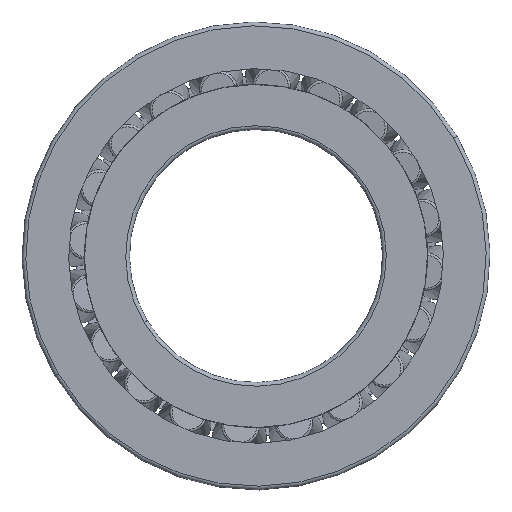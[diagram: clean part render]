
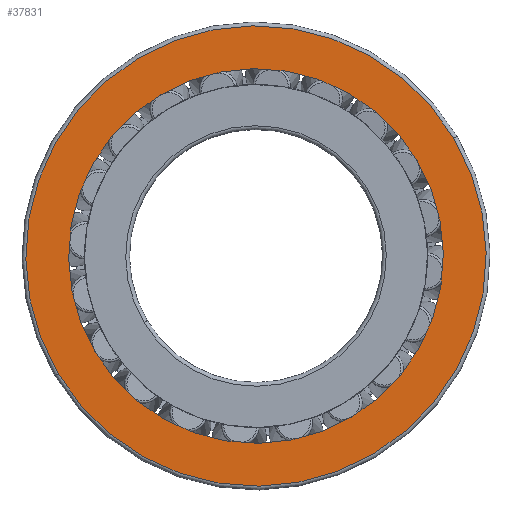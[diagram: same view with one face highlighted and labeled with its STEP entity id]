
A CAD part, front view. The second image highlights one B-rep face of the part: STEP entity #37831.
In plain terms, the highlighted planar face has unit normal (0, -1, 0).
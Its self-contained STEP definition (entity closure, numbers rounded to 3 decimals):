
#73 = CONICAL_SURFACE('',#74,14.811,0.209);
#74 = AXIS2_PLACEMENT_3D('',#75,#76,#77);
#75 = CARTESIAN_POINT('',(0.,116.9,0.)
  );
#76 = DIRECTION('',(0.,1.,0.));
#77 = DIRECTION('',(-0.859,0.,-0.511)
  );
#8903 = CONICAL_SURFACE('',#8904,14.811,0.209);
#8904 = AXIS2_PLACEMENT_3D('',#8905,#8906,#8907);
#8905 = CARTESIAN_POINT('',(0.,116.9,
    0.));
#8906 = DIRECTION('',(0.,1.,0.));
#8907 = DIRECTION('',(-0.859,0.,
    -0.511));
#16813 = TOROIDAL_SURFACE('',#16814,18.2,0.3);
#16814 = AXIS2_PLACEMENT_3D('',#16815,#16816,#16817);
#16815 = CARTESIAN_POINT('',(0.,117.2,
    0.));
#16816 = DIRECTION('',(0.,-1.,0.));
#16817 = DIRECTION('',(0.859,0.,0.511)
  );
#16838 = VERTEX_POINT('',#16839);
#16839 = CARTESIAN_POINT('',(-15.64,116.9,-9.307));
#16854 = TOROIDAL_SURFACE('',#16855,18.2,0.3);
#16855 = AXIS2_PLACEMENT_3D('',#16856,#16857,#16858);
#16856 = CARTESIAN_POINT('',(0.,117.2,
    0.));
#16857 = DIRECTION('',(0.,-1.,0.));
#16858 = DIRECTION('',(0.859,0.,0.511)
  );
#16866 = EDGE_CURVE('',#16867,#16838,#16869,.T.);
#16867 = VERTEX_POINT('',#16868);
#16868 = CARTESIAN_POINT('',(15.64,116.9,9.307));
#16869 = SURFACE_CURVE('',#16870,(#16875,#16882),.PCURVE_S1.);
#16870 = CIRCLE('',#16871,18.2);
#16871 = AXIS2_PLACEMENT_3D('',#16872,#16873,#16874);
#16872 = CARTESIAN_POINT('',(0.,116.9,
    0.));
#16873 = DIRECTION('',(0.,-1.,0.));
#16874 = DIRECTION('',(0.859,0.,0.511)
  );
#16875 = PCURVE('',#16813,#16876);
#16876 = DEFINITIONAL_REPRESENTATION('',(#16877),#16881);
#16877 = LINE('',#16878,#16879);
#16878 = CARTESIAN_POINT('',(0.,1.571));
#16879 = VECTOR('',#16880,1.);
#16880 = DIRECTION('',(1.,0.));
#16881 = ( GEOMETRIC_REPRESENTATION_CONTEXT(2) 
PARAMETRIC_REPRESENTATION_CONTEXT() REPRESENTATION_CONTEXT('2D SPACE',''
  ) );
#16882 = PCURVE('',#16883,#16888);
#16883 = PLANE('',#16884);
#16884 = AXIS2_PLACEMENT_3D('',#16885,#16886,#16887);
#16885 = CARTESIAN_POINT('',(-15.64,116.9,-9.307));
#16886 = DIRECTION('',(0.,1.,0.));
#16887 = DIRECTION('',(-0.859,0.,
    -0.511));
#16888 = DEFINITIONAL_REPRESENTATION('',(#16889),#16897);
#16889 = ( BOUNDED_CURVE() B_SPLINE_CURVE(2,(#16890,#16891,#16892,#16893
    ,#16894,#16895,#16896),.UNSPECIFIED.,.T.,.F.) 
B_SPLINE_CURVE_WITH_KNOTS((1,2,2,2,2,1),(-2.094,0.,
    2.094,4.189,6.283,8.378),
.UNSPECIFIED.) CURVE() GEOMETRIC_REPRESENTATION_ITEM() 
RATIONAL_B_SPLINE_CURVE((1.,0.5,1.,0.5,1.,0.5,1.)) REPRESENTATION_ITEM(
  '') );
#16890 = CARTESIAN_POINT('',(-36.4,0.));
#16891 = CARTESIAN_POINT('',(-36.4,31.523));
#16892 = CARTESIAN_POINT('',(-9.1,15.762));
#16893 = CARTESIAN_POINT('',(18.2,0.));
#16894 = CARTESIAN_POINT('',(-9.1,-15.762));
#16895 = CARTESIAN_POINT('',(-36.4,-31.523));
#16896 = CARTESIAN_POINT('',(-36.4,0.));
#16897 = ( GEOMETRIC_REPRESENTATION_CONTEXT(2) 
PARAMETRIC_REPRESENTATION_CONTEXT() REPRESENTATION_CONTEXT('2D SPACE',''
  ) );
#19746 = VERTEX_POINT('',#19747);
#19747 = CARTESIAN_POINT('',(-12.728,116.9,-7.574));
#20144 = VERTEX_POINT('',#20145);
#20145 = CARTESIAN_POINT('',(12.728,116.9,7.574));
#20166 = EDGE_CURVE('',#19746,#20144,#20167,.T.);
#20167 = SURFACE_CURVE('',#20168,(#20173,#20180),.PCURVE_S1.);
#20168 = CIRCLE('',#20169,14.811);
#20169 = AXIS2_PLACEMENT_3D('',#20170,#20171,#20172);
#20170 = CARTESIAN_POINT('',(0.,116.9,
    0.));
#20171 = DIRECTION('',(0.,-1.,0.));
#20172 = DIRECTION('',(0.859,0.,0.511)
  );
#20173 = PCURVE('',#73,#20174);
#20174 = DEFINITIONAL_REPRESENTATION('',(#20175),#20179);
#20175 = LINE('',#20176,#20177);
#20176 = CARTESIAN_POINT('',(9.425,0.));
#20177 = VECTOR('',#20178,1.);
#20178 = DIRECTION('',(-1.,0.));
#20179 = ( GEOMETRIC_REPRESENTATION_CONTEXT(2) 
PARAMETRIC_REPRESENTATION_CONTEXT() REPRESENTATION_CONTEXT('2D SPACE',''
  ) );
#20180 = PCURVE('',#16883,#20181);
#20181 = DEFINITIONAL_REPRESENTATION('',(#20182),#20190);
#20182 = ( BOUNDED_CURVE() B_SPLINE_CURVE(2,(#20183,#20184,#20185,#20186
    ,#20187,#20188,#20189),.UNSPECIFIED.,.T.,.F.) 
B_SPLINE_CURVE_WITH_KNOTS((1,2,2,2,2,1),(-2.094,0.,
    2.094,4.189,6.283,8.378),
.UNSPECIFIED.) CURVE() GEOMETRIC_REPRESENTATION_ITEM() 
RATIONAL_B_SPLINE_CURVE((1.,0.5,1.,0.5,1.,0.5,1.)) REPRESENTATION_ITEM(
  '') );
#20183 = CARTESIAN_POINT('',(-33.011,0.));
#20184 = CARTESIAN_POINT('',(-33.011,25.653));
#20185 = CARTESIAN_POINT('',(-10.795,12.826));
#20186 = CARTESIAN_POINT('',(11.421,0.));
#20187 = CARTESIAN_POINT('',(-10.795,-12.826));
#20188 = CARTESIAN_POINT('',(-33.011,-25.653));
#20189 = CARTESIAN_POINT('',(-33.011,0.));
#20190 = ( GEOMETRIC_REPRESENTATION_CONTEXT(2) 
PARAMETRIC_REPRESENTATION_CONTEXT() REPRESENTATION_CONTEXT('2D SPACE',''
  ) );
#37831 = ADVANCED_FACE('',(#37832,#37861),#16883,.F.);
#37832 = FACE_BOUND('',#37833,.T.);
#37833 = EDGE_LOOP('',(#37834,#37835));
#37834 = ORIENTED_EDGE('',*,*,#20166,.F.);
#37835 = ORIENTED_EDGE('',*,*,#37836,.F.);
#37836 = EDGE_CURVE('',#20144,#19746,#37837,.T.);
#37837 = SURFACE_CURVE('',#37838,(#37843,#37854),.PCURVE_S1.);
#37838 = CIRCLE('',#37839,14.811);
#37839 = AXIS2_PLACEMENT_3D('',#37840,#37841,#37842);
#37840 = CARTESIAN_POINT('',(0.,116.9,
    0.));
#37841 = DIRECTION('',(0.,-1.,0.));
#37842 = DIRECTION('',(0.859,0.,0.511)
  );
#37843 = PCURVE('',#16883,#37844);
#37844 = DEFINITIONAL_REPRESENTATION('',(#37845),#37853);
#37845 = ( BOUNDED_CURVE() B_SPLINE_CURVE(2,(#37846,#37847,#37848,#37849
    ,#37850,#37851,#37852),.UNSPECIFIED.,.T.,.F.) 
B_SPLINE_CURVE_WITH_KNOTS((1,2,2,2,2,1),(-2.094,0.,
    2.094,4.189,6.283,8.378),
.UNSPECIFIED.) CURVE() GEOMETRIC_REPRESENTATION_ITEM() 
RATIONAL_B_SPLINE_CURVE((1.,0.5,1.,0.5,1.,0.5,1.)) REPRESENTATION_ITEM(
  '') );
#37846 = CARTESIAN_POINT('',(-33.011,0.));
#37847 = CARTESIAN_POINT('',(-33.011,25.653));
#37848 = CARTESIAN_POINT('',(-10.795,12.826));
#37849 = CARTESIAN_POINT('',(11.421,0.));
#37850 = CARTESIAN_POINT('',(-10.795,-12.826));
#37851 = CARTESIAN_POINT('',(-33.011,-25.653));
#37852 = CARTESIAN_POINT('',(-33.011,0.));
#37853 = ( GEOMETRIC_REPRESENTATION_CONTEXT(2) 
PARAMETRIC_REPRESENTATION_CONTEXT() REPRESENTATION_CONTEXT('2D SPACE',''
  ) );
#37854 = PCURVE('',#8903,#37855);
#37855 = DEFINITIONAL_REPRESENTATION('',(#37856),#37860);
#37856 = LINE('',#37857,#37858);
#37857 = CARTESIAN_POINT('',(3.142,0.));
#37858 = VECTOR('',#37859,1.);
#37859 = DIRECTION('',(-1.,0.));
#37860 = ( GEOMETRIC_REPRESENTATION_CONTEXT(2) 
PARAMETRIC_REPRESENTATION_CONTEXT() REPRESENTATION_CONTEXT('2D SPACE',''
  ) );
#37861 = FACE_BOUND('',#37862,.T.);
#37862 = EDGE_LOOP('',(#37863,#37864));
#37863 = ORIENTED_EDGE('',*,*,#16866,.T.);
#37864 = ORIENTED_EDGE('',*,*,#37865,.T.);
#37865 = EDGE_CURVE('',#16838,#16867,#37866,.T.);
#37866 = SURFACE_CURVE('',#37867,(#37872,#37883),.PCURVE_S1.);
#37867 = CIRCLE('',#37868,18.2);
#37868 = AXIS2_PLACEMENT_3D('',#37869,#37870,#37871);
#37869 = CARTESIAN_POINT('',(0.,116.9,
    0.));
#37870 = DIRECTION('',(0.,-1.,0.));
#37871 = DIRECTION('',(0.859,0.,0.511)
  );
#37872 = PCURVE('',#16883,#37873);
#37873 = DEFINITIONAL_REPRESENTATION('',(#37874),#37882);
#37874 = ( BOUNDED_CURVE() B_SPLINE_CURVE(2,(#37875,#37876,#37877,#37878
    ,#37879,#37880,#37881),.UNSPECIFIED.,.T.,.F.) 
B_SPLINE_CURVE_WITH_KNOTS((1,2,2,2,2,1),(-2.094,0.,
    2.094,4.189,6.283,8.378),
.UNSPECIFIED.) CURVE() GEOMETRIC_REPRESENTATION_ITEM() 
RATIONAL_B_SPLINE_CURVE((1.,0.5,1.,0.5,1.,0.5,1.)) REPRESENTATION_ITEM(
  '') );
#37875 = CARTESIAN_POINT('',(-36.4,0.));
#37876 = CARTESIAN_POINT('',(-36.4,31.523));
#37877 = CARTESIAN_POINT('',(-9.1,15.762));
#37878 = CARTESIAN_POINT('',(18.2,0.));
#37879 = CARTESIAN_POINT('',(-9.1,-15.762));
#37880 = CARTESIAN_POINT('',(-36.4,-31.523));
#37881 = CARTESIAN_POINT('',(-36.4,0.));
#37882 = ( GEOMETRIC_REPRESENTATION_CONTEXT(2) 
PARAMETRIC_REPRESENTATION_CONTEXT() REPRESENTATION_CONTEXT('2D SPACE',''
  ) );
#37883 = PCURVE('',#16854,#37884);
#37884 = DEFINITIONAL_REPRESENTATION('',(#37885),#37889);
#37885 = LINE('',#37886,#37887);
#37886 = CARTESIAN_POINT('',(0.,1.571));
#37887 = VECTOR('',#37888,1.);
#37888 = DIRECTION('',(1.,0.));
#37889 = ( GEOMETRIC_REPRESENTATION_CONTEXT(2) 
PARAMETRIC_REPRESENTATION_CONTEXT() REPRESENTATION_CONTEXT('2D SPACE',''
  ) );
